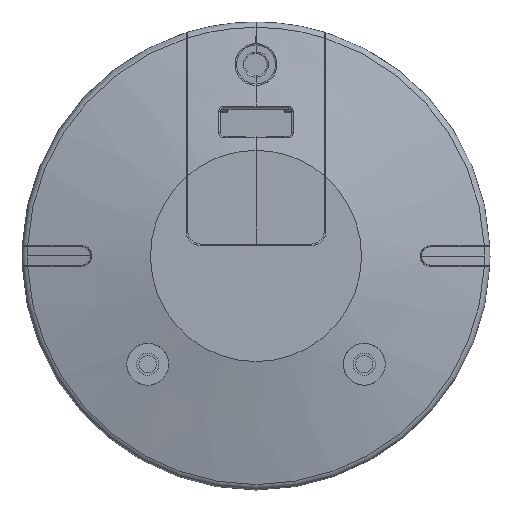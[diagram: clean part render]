
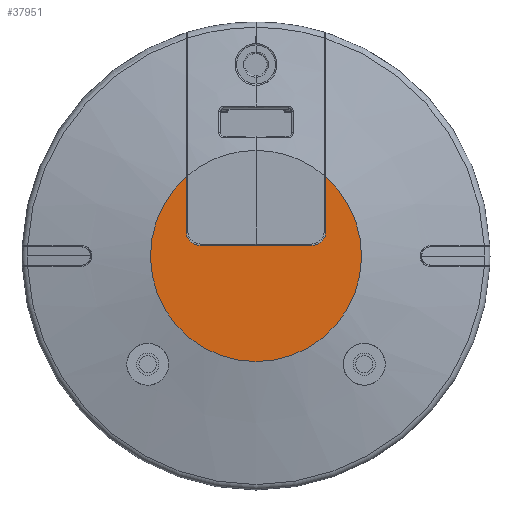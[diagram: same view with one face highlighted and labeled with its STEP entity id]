
A CAD part, front view. The second image highlights one B-rep face of the part: STEP entity #37951.
In plain terms, the highlighted planar face has unit normal (0, -1, 0).
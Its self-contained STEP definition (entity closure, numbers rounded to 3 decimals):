
#124 = CARTESIAN_POINT ( 'NONE',  ( 3.094, 12.781, 12.518 ) ) ;
#2507 = EDGE_CURVE ( 'NONE', #49381, #34654, #32228, .T. ) ;
#3892 = EDGE_CURVE ( 'NONE', #13901, #63586, #28025, .T. ) ;
#8012 = DIRECTION ( 'NONE',  ( 0., 0., 1. ) ) ;
#8324 = DIRECTION ( 'NONE',  ( 0., 1., 0. ) ) ;
#9478 = CARTESIAN_POINT ( 'NONE',  ( 21.094, 12.781, 12.518 ) ) ;
#9819 = ORIENTED_EDGE ( 'NONE', *, *, #49623, .T. ) ;
#9997 = FACE_OUTER_BOUND ( 'NONE', #64537, .T. ) ;
#10562 = VERTEX_POINT ( 'NONE', #124 ) ;
#11622 = LINE ( 'NONE', #9478, #63464 ) ;
#13307 = DIRECTION ( 'NONE',  ( 0., 0., -1. ) ) ;
#13901 = VERTEX_POINT ( 'NONE', #35080 ) ;
#14541 = DIRECTION ( 'NONE',  ( -1., 0., 0. ) ) ;
#16667 = VECTOR ( 'NONE', #13307, 1000. ) ;
#18657 = CARTESIAN_POINT ( 'NONE',  ( 19.094, 12.781, 14.518 ) ) ;
#23214 = DIRECTION ( 'NONE',  ( 0., 1., 0. ) ) ;
#23866 = CARTESIAN_POINT ( 'NONE',  ( 3.094, 12.781, 14.518 ) ) ;
#27284 = CARTESIAN_POINT ( 'NONE',  ( 11.094, 12.781, 11.018 ) ) ;
#28025 = CIRCLE ( 'NONE', #36256, 2. ) ;
#29204 = ORIENTED_EDGE ( 'NONE', *, *, #29704, .T. ) ;
#29704 = EDGE_CURVE ( 'NONE', #34654, #52759, #29953, .T. ) ;
#29953 = CIRCLE ( 'NONE', #51219, 15.113 ) ;
#30080 = LINE ( 'NONE', #48625, #16667 ) ;
#32175 = CARTESIAN_POINT ( 'NONE',  ( 1.094, 12.781, 14.518 ) ) ;
#32228 = LINE ( 'NONE', #42699, #57334 ) ;
#34654 = VERTEX_POINT ( 'NONE', #41758 ) ;
#34877 = AXIS2_PLACEMENT_3D ( 'NONE', #23866, #23214, #53904 ) ;
#35080 = CARTESIAN_POINT ( 'NONE',  ( 21.094, 12.781, 14.518 ) ) ;
#36256 = AXIS2_PLACEMENT_3D ( 'NONE', #18657, #8324, #42782 ) ;
#36949 = CARTESIAN_POINT ( 'NONE',  ( 19.094, 12.781, 12.518 ) ) ;
#36954 = DIRECTION ( 'NONE',  ( 0., 0., -1. ) ) ;
#37390 = PLANE ( 'NONE',  #43793 ) ;
#37951 = ADVANCED_FACE ( 'NONE', ( #9997 ), #37390, .T. ) ;
#40017 = ORIENTED_EDGE ( 'NONE', *, *, #41767, .T. ) ;
#41758 = CARTESIAN_POINT ( 'NONE',  ( 1.094, 12.781, 22.349 ) ) ;
#41767 = EDGE_CURVE ( 'NONE', #52759, #13901, #30080, .T. ) ;
#42699 = CARTESIAN_POINT ( 'NONE',  ( 1.094, 12.781, 17.518 ) ) ;
#42782 = DIRECTION ( 'NONE',  ( 0., 0., -1. ) ) ;
#42955 = CARTESIAN_POINT ( 'NONE',  ( 11.094, 12.781, 11.018 ) ) ;
#43793 = AXIS2_PLACEMENT_3D ( 'NONE', #27284, #47855, #36954 ) ;
#45122 = ORIENTED_EDGE ( 'NONE', *, *, #48798, .T. ) ;
#47855 = DIRECTION ( 'NONE',  ( 0., -1., 0. ) ) ;
#48030 = CARTESIAN_POINT ( 'NONE',  ( 21.094, 12.781, 22.349 ) ) ;
#48625 = CARTESIAN_POINT ( 'NONE',  ( 21.094, 12.781, 17.518 ) ) ;
#48798 = EDGE_CURVE ( 'NONE', #10562, #49381, #50183, .T. ) ;
#49381 = VERTEX_POINT ( 'NONE', #32175 ) ;
#49623 = EDGE_CURVE ( 'NONE', #63586, #10562, #11622, .T. ) ;
#50183 = CIRCLE ( 'NONE', #34877, 2. ) ;
#51219 = AXIS2_PLACEMENT_3D ( 'NONE', #42955, #52577, #57704 ) ;
#52577 = DIRECTION ( 'NONE',  ( 0., -1., 0. ) ) ;
#52759 = VERTEX_POINT ( 'NONE', #48030 ) ;
#53904 = DIRECTION ( 'NONE',  ( 0., 0., -1. ) ) ;
#57334 = VECTOR ( 'NONE', #8012, 1000. ) ;
#57704 = DIRECTION ( 'NONE',  ( 0., 0., -1. ) ) ;
#59189 = ORIENTED_EDGE ( 'NONE', *, *, #3892, .T. ) ;
#60585 = ORIENTED_EDGE ( 'NONE', *, *, #2507, .T. ) ;
#63464 = VECTOR ( 'NONE', #14541, 1000. ) ;
#63586 = VERTEX_POINT ( 'NONE', #36949 ) ;
#64537 = EDGE_LOOP ( 'NONE', ( #40017, #59189, #9819, #45122, #60585, #29204 ) ) ;
